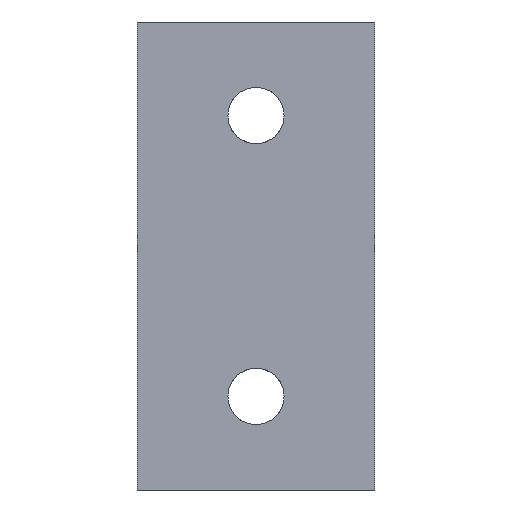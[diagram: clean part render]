
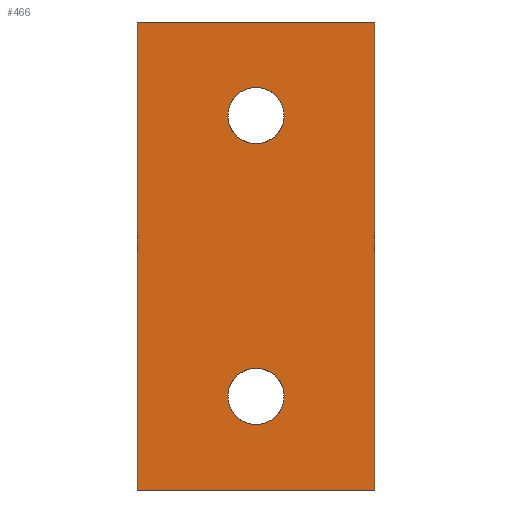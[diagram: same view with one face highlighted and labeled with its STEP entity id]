
A CAD part, front view. The second image highlights one B-rep face of the part: STEP entity #466.
In plain terms, the highlighted face is a extrusion surface.
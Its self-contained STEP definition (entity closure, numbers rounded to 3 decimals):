
#355=CARTESIAN_POINT('Control Point',(-38.,0.,0.)) ;
#356=CARTESIAN_POINT('Control Point',(-38.,0.,-75.)) ;
#360=CARTESIAN_POINT('Line Origine',(-19.,0.,-75.)) ;
#364=CARTESIAN_POINT('Vertex',(-38.,0.,-75.)) ;
#366=CARTESIAN_POINT('Vertex',(0.,0.,-75.)) ;
#369=CARTESIAN_POINT('Line Origine',(0.,0.,-37.5)) ;
#373=CARTESIAN_POINT('Vertex',(0.,0.,0.)) ;
#376=CARTESIAN_POINT('Line Origine',(-19.,0.,0.)) ;
#380=CARTESIAN_POINT('Vertex',(-38.,0.,0.)) ;
#383=CARTESIAN_POINT('Line Origine',(-38.,0.,-37.5)) ;
#395=CARTESIAN_POINT('Control Point',(-14.5,0.,-60.)) ;
#396=CARTESIAN_POINT('Control Point',(-14.5,0.,-61.247)) ;
#397=CARTESIAN_POINT('Control Point',(-14.932,0.,-62.494)) ;
#398=CARTESIAN_POINT('Control Point',(-15.8,0.,-63.539)) ;
#399=CARTESIAN_POINT('Control Point',(-17.71,0.,-64.63)) ;
#400=CARTESIAN_POINT('Control Point',(-19.841,0.,-64.54)) ;
#401=CARTESIAN_POINT('Control Point',(-20.671,0.,-64.305)) ;
#402=CARTESIAN_POINT('Control Point',(-22.085,0.,-63.511)) ;
#403=CARTESIAN_POINT('Control Point',(-23.032,0.,-62.204)) ;
#404=CARTESIAN_POINT('Control Point',(-23.344,0.,-61.498)) ;
#405=CARTESIAN_POINT('Control Point',(-23.5,0.,-60.749)) ;
#406=CARTESIAN_POINT('Control Point',(-23.5,0.,-60.)) ;
#407=CARTESIAN_POINT('Vertex',(-14.5,0.,-60.)) ;
#409=CARTESIAN_POINT('Vertex',(-23.5,0.,-60.)) ;
#413=CARTESIAN_POINT('Control Point',(-23.5,0.,-60.)) ;
#414=CARTESIAN_POINT('Control Point',(-23.5,0.,-58.753)) ;
#415=CARTESIAN_POINT('Control Point',(-23.068,0.,-57.506)) ;
#416=CARTESIAN_POINT('Control Point',(-22.2,0.,-56.461)) ;
#417=CARTESIAN_POINT('Control Point',(-20.29,0.,-55.37)) ;
#418=CARTESIAN_POINT('Control Point',(-18.159,0.,-55.46)) ;
#419=CARTESIAN_POINT('Control Point',(-17.329,0.,-55.695)) ;
#420=CARTESIAN_POINT('Control Point',(-15.915,0.,-56.489)) ;
#421=CARTESIAN_POINT('Control Point',(-14.968,0.,-57.796)) ;
#422=CARTESIAN_POINT('Control Point',(-14.656,0.,-58.502)) ;
#423=CARTESIAN_POINT('Control Point',(-14.5,0.,-59.251)) ;
#424=CARTESIAN_POINT('Control Point',(-14.5,0.,-60.)) ;
#431=CARTESIAN_POINT('Control Point',(-14.5,0.,-15.)) ;
#432=CARTESIAN_POINT('Control Point',(-14.5,0.,-16.247)) ;
#433=CARTESIAN_POINT('Control Point',(-14.932,0.,-17.494)) ;
#434=CARTESIAN_POINT('Control Point',(-15.8,0.,-18.539)) ;
#435=CARTESIAN_POINT('Control Point',(-17.71,0.,-19.63)) ;
#436=CARTESIAN_POINT('Control Point',(-19.841,0.,-19.54)) ;
#437=CARTESIAN_POINT('Control Point',(-20.671,0.,-19.305)) ;
#438=CARTESIAN_POINT('Control Point',(-22.085,0.,-18.511)) ;
#439=CARTESIAN_POINT('Control Point',(-23.032,0.,-17.204)) ;
#440=CARTESIAN_POINT('Control Point',(-23.344,0.,-16.498)) ;
#441=CARTESIAN_POINT('Control Point',(-23.5,0.,-15.749)) ;
#442=CARTESIAN_POINT('Control Point',(-23.5,0.,-15.)) ;
#443=CARTESIAN_POINT('Vertex',(-14.5,0.,-15.)) ;
#445=CARTESIAN_POINT('Vertex',(-23.5,0.,-15.)) ;
#449=CARTESIAN_POINT('Control Point',(-23.5,0.,-15.)) ;
#450=CARTESIAN_POINT('Control Point',(-23.5,0.,-13.753)) ;
#451=CARTESIAN_POINT('Control Point',(-23.068,0.,-12.506)) ;
#452=CARTESIAN_POINT('Control Point',(-22.2,0.,-11.461)) ;
#453=CARTESIAN_POINT('Control Point',(-20.29,0.,-10.37)) ;
#454=CARTESIAN_POINT('Control Point',(-18.159,0.,-10.46)) ;
#455=CARTESIAN_POINT('Control Point',(-17.329,0.,-10.695)) ;
#456=CARTESIAN_POINT('Control Point',(-15.915,0.,-11.489)) ;
#457=CARTESIAN_POINT('Control Point',(-14.968,0.,-12.796)) ;
#458=CARTESIAN_POINT('Control Point',(-14.656,0.,-13.502)) ;
#459=CARTESIAN_POINT('Control Point',(-14.5,0.,-14.251)) ;
#460=CARTESIAN_POINT('Control Point',(-14.5,0.,-15.)) ;
#357=DIRECTION('Vector Direction',(1.,0.,0.)) ;
#361=DIRECTION('Vector Direction',(1.,0.,0.)) ;
#370=DIRECTION('Vector Direction',(0.,0.,-1.)) ;
#377=DIRECTION('Vector Direction',(1.,0.,0.)) ;
#384=DIRECTION('Vector Direction',(0.,0.,-1.)) ;
#389=ORIENTED_EDGE('',*,*,#368,.T.) ;
#390=ORIENTED_EDGE('',*,*,#375,.T.) ;
#391=ORIENTED_EDGE('',*,*,#382,.T.) ;
#392=ORIENTED_EDGE('',*,*,#387,.T.) ;
#427=ORIENTED_EDGE('',*,*,#411,.T.) ;
#428=ORIENTED_EDGE('',*,*,#425,.T.) ;
#463=ORIENTED_EDGE('',*,*,#447,.T.) ;
#464=ORIENTED_EDGE('',*,*,#461,.T.) ;
#429=FACE_BOUND('',#426,.T.) ;
#465=FACE_BOUND('',#462,.T.) ;
#358=VECTOR('Extrusion Surface Vector',#357,1.) ;
#362=VECTOR('Line Direction',#361,1.) ;
#371=VECTOR('Line Direction',#370,1.) ;
#378=VECTOR('Line Direction',#377,1.) ;
#385=VECTOR('Line Direction',#384,1.) ;
#466=ADVANCED_FACE('Superficie.6',(#393,#429,#465),#359,.T.) ;
#354=B_SPLINE_CURVE_WITH_KNOTS('',1,(#355,#356),.UNSPECIFIED.,.F.,.U.,(2,2),(-37.5,37.5),.UNSPECIFIED.) ;
#394=B_SPLINE_CURVE_WITH_KNOTS('',5,(#395,#396,#397,#398,#399,#400,#401,#402,#403,#404,#405,#406),.UNSPECIFIED.,.F.,.U.,(6,3,3,6),(0.,8.818,14.697,19.993),.UNSPECIFIED.) ;
#412=B_SPLINE_CURVE_WITH_KNOTS('',5,(#413,#414,#415,#416,#417,#418,#419,#420,#421,#422,#423,#424),.UNSPECIFIED.,.F.,.U.,(6,3,3,6),(0.,8.818,14.697,19.993),.UNSPECIFIED.) ;
#430=B_SPLINE_CURVE_WITH_KNOTS('',5,(#431,#432,#433,#434,#435,#436,#437,#438,#439,#440,#441,#442),.UNSPECIFIED.,.F.,.U.,(6,3,3,6),(0.,8.818,14.697,19.993),.UNSPECIFIED.) ;
#448=B_SPLINE_CURVE_WITH_KNOTS('',5,(#449,#450,#451,#452,#453,#454,#455,#456,#457,#458,#459,#460),.UNSPECIFIED.,.F.,.U.,(6,3,3,6),(0.,8.818,14.697,19.993),.UNSPECIFIED.) ;
#368=EDGE_CURVE('',#365,#367,#363,.T.) ;
#375=EDGE_CURVE('',#367,#374,#372,.F.) ;
#382=EDGE_CURVE('',#374,#381,#379,.F.) ;
#387=EDGE_CURVE('',#381,#365,#386,.T.) ;
#411=EDGE_CURVE('',#408,#410,#394,.T.) ;
#425=EDGE_CURVE('',#410,#408,#412,.T.) ;
#447=EDGE_CURVE('',#444,#446,#430,.T.) ;
#461=EDGE_CURVE('',#446,#444,#448,.T.) ;
#388=EDGE_LOOP('',(#389,#390,#391,#392)) ;
#426=EDGE_LOOP('',(#427,#428)) ;
#462=EDGE_LOOP('',(#463,#464)) ;
#393=FACE_OUTER_BOUND('',#388,.T.) ;
#363=LINE('Line',#360,#362) ;
#372=LINE('Line',#369,#371) ;
#379=LINE('Line',#376,#378) ;
#386=LINE('Line',#383,#385) ;
#359=SURFACE_OF_LINEAR_EXTRUSION('generated tabulated cylinder',#354,#358) ;
#365=VERTEX_POINT('',#364) ;
#367=VERTEX_POINT('',#366) ;
#374=VERTEX_POINT('',#373) ;
#381=VERTEX_POINT('',#380) ;
#408=VERTEX_POINT('',#407) ;
#410=VERTEX_POINT('',#409) ;
#444=VERTEX_POINT('',#443) ;
#446=VERTEX_POINT('',#445) ;
